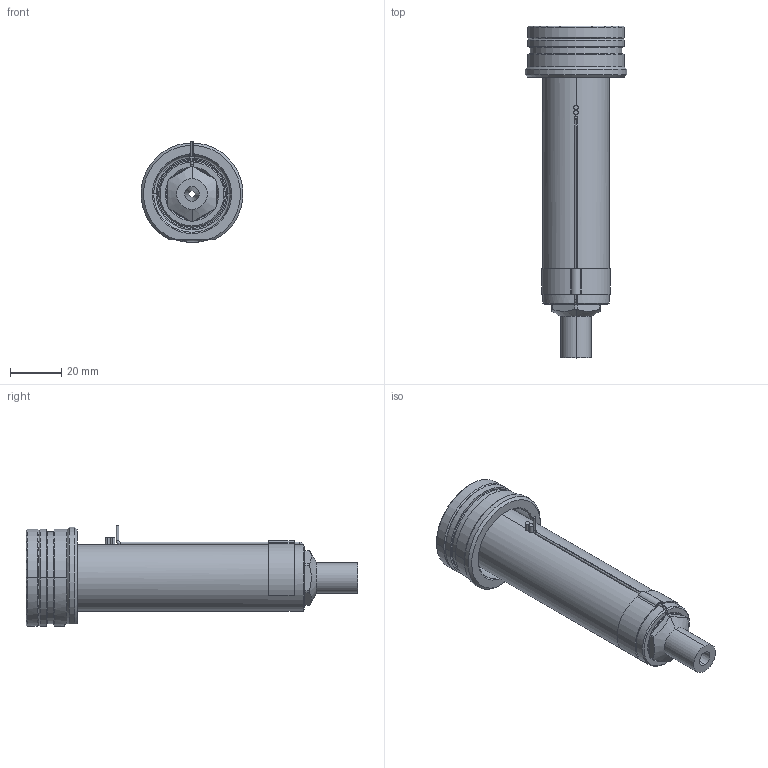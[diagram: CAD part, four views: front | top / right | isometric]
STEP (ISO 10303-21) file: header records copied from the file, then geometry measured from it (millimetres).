
FILE_DESCRIPTION((''),'2;1');
FILE_NAME('EO08_VG-ST_ESG_100_SW','2024-02-19T12:44:16',('sundharh'),(''),'CREO PARAMETRIC BY PTC INC, 2023154','CREO PARAMETRIC BY PTC INC, 2023154','');
FILE_SCHEMA(('CONFIG_CONTROL_DESIGN'));
Length unit declared in the file: millimetre
Products named in the file (1): EO08_VG-ST_ESG_100_SW
Bounding box: 39.88 x 130 x 39.52 mm (x, y, z)
Volume: 65095.1 mm3; surface area: 19174.9 mm2
Topology: 1 solids, 1 shells, 175 faces, 438 edges, 270 vertices
Faces by surface type: cylinder 64, plane 45, cone 37, torus 19, bspline 8, sphere 2
Entity records: 6529 total; most frequent: CARTESIAN_POINT 2243, DIRECTION 947, ORIENTED_EDGE 872, EDGE_CURVE 436, AXIS2_PLACEMENT_3D 393, VERTEX_POINT 270, CIRCLE 226, EDGE_LOOP 190
